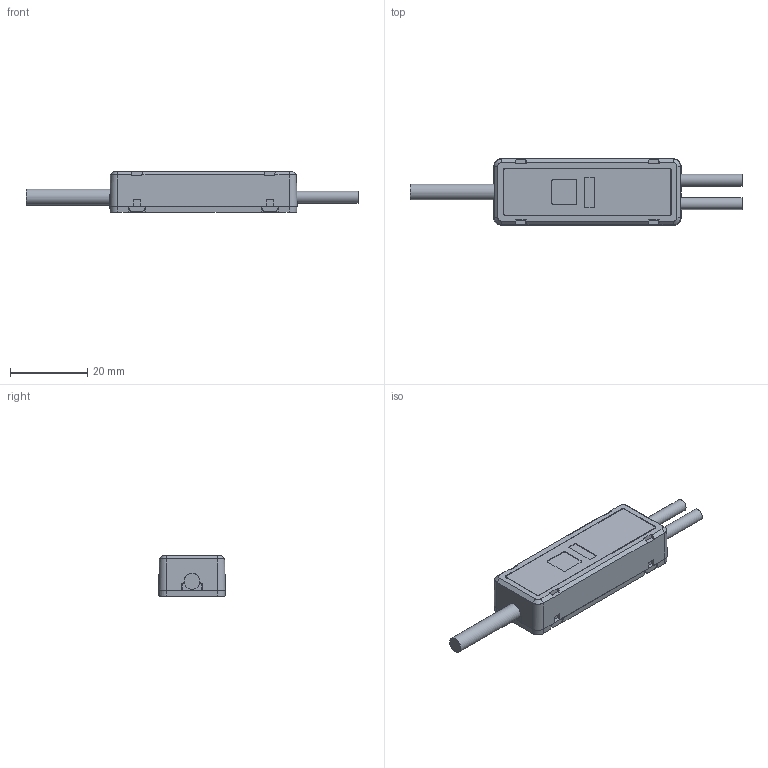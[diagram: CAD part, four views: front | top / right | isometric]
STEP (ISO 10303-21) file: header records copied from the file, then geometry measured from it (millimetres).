
FILE_DESCRIPTION(/* description */ (''),/* implementation_level */ '2;1');
FILE_NAME(/* name */ 'LS系列-2点从站.stp',/* time_stamp */ '2023-10-07T17:40:16+08:00',/* author */ (''),/* organization */ (''),/* preprocessor_version */ 'ST-DEVELOPER v16',/* originating_system */ 'SIEMENS PLM Software NX 10.0',/* authorisation */ '');
FILE_SCHEMA (('AP203_CONFIGURATION_CONTROLLED_3D_DESIGN_OF_MECHANICAL_PARTS_AND_ASSEMBLIES_MIM_LF { 1 0 10303 403 2 1 2}'));
Length unit declared in the file: millimetre
Products named in the file (1): chao8068F8924yc4
Bounding box: 85.9 x 17.3 x 10.5 mm (x, y, z)
Volume: 9035.8 mm3; surface area: 6725.6 mm2
Topology: 9 solids, 9 shells, 204 faces, 534 edges, 351 vertices
Faces by surface type: plane 155, cylinder 23, cone 14, bspline 12
Full cylindrical faces by diameter (mm): 3.1 x2, 4.1 x1
Entity records: 7505 total; most frequent: CARTESIAN_POINT 2481, ORIENTED_EDGE 1058, DIRECTION 936, EDGE_CURVE 529, LINE 418, VECTOR 418, VERTEX_POINT 351, AXIS2_PLACEMENT_3D 259
